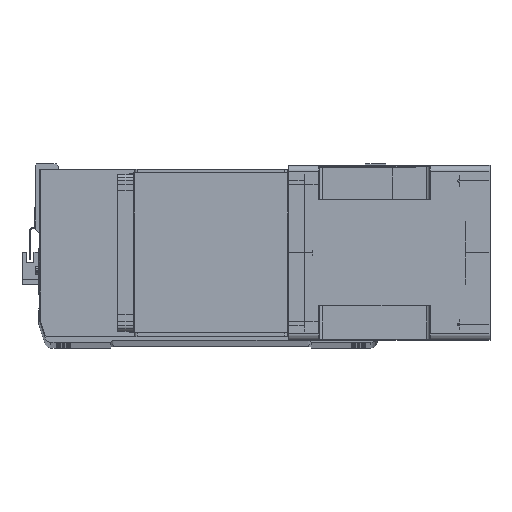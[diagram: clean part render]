
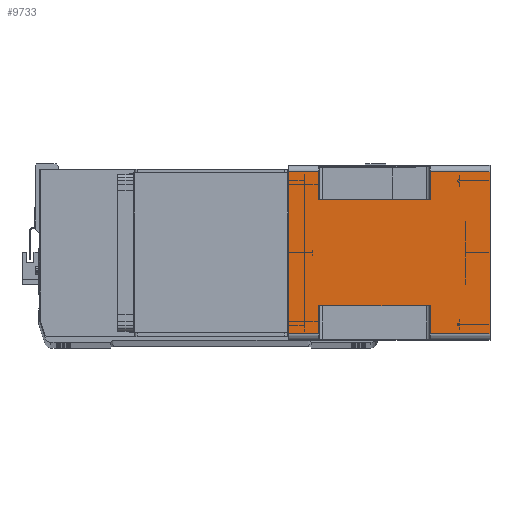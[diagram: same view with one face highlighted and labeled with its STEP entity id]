
A CAD part, top view. The second image highlights one B-rep face of the part: STEP entity #9733.
In plain terms, the highlighted planar face has unit normal (0, 0, 1) as drawn and (1, 0, 0) by its records, which use the part's own axes.
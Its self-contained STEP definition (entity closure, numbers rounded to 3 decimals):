
#118 = CARTESIAN_POINT ( 'NONE',  ( 71., -43., -24.5 ) ) ;
#300 = VERTEX_POINT ( 'NONE', #33904 ) ;
#623 = CARTESIAN_POINT ( 'NONE',  ( 71., -43., -164. ) ) ;
#679 = LINE ( 'NONE', #23363, #19941 ) ;
#810 = VERTEX_POINT ( 'NONE', #7109 ) ;
#1235 = VECTOR ( 'NONE', #19559, 1000. ) ;
#1695 = VECTOR ( 'NONE', #31160, 1000. ) ;
#1833 = VERTEX_POINT ( 'NONE', #25120 ) ;
#1869 = VERTEX_POINT ( 'NONE', #4218 ) ;
#2260 = CARTESIAN_POINT ( 'NONE',  ( 71., -43., -115.5 ) ) ;
#2362 = LINE ( 'NONE', #31084, #24511 ) ;
#2371 = DIRECTION ( 'NONE',  ( 0., 0., 1. ) ) ;
#4218 = CARTESIAN_POINT ( 'NONE',  ( 71., 43., -115.5 ) ) ;
#4696 = VECTOR ( 'NONE', #21502, 1000. ) ;
#4741 = ORIENTED_EDGE ( 'NONE', *, *, #7540, .F. ) ;
#5068 = AXIS2_PLACEMENT_3D ( 'NONE', #16546, #14148, #24241 ) ;
#5210 = EDGE_CURVE ( 'NONE', #13294, #23932, #23449, .T. ) ;
#5735 = LINE ( 'NONE', #25205, #1235 ) ;
#5934 = CARTESIAN_POINT ( 'NONE',  ( 71., -66., -115.5 ) ) ;
#7085 = EDGE_CURVE ( 'NONE', #20629, #30295, #22377, .T. ) ;
#7109 = CARTESIAN_POINT ( 'NONE',  ( 71., 66., -115.5 ) ) ;
#7540 = EDGE_CURVE ( 'NONE', #1833, #17716, #8059, .T. ) ;
#8059 = LINE ( 'NONE', #30953, #29378 ) ;
#8803 = CARTESIAN_POINT ( 'NONE',  ( 71., 43., -24.5 ) ) ;
#9335 = EDGE_CURVE ( 'NONE', #23298, #300, #5735, .T. ) ;
#9457 = EDGE_CURVE ( 'NONE', #17716, #21570, #15581, .T. ) ;
#9568 = EDGE_LOOP ( 'NONE', ( #17107, #20390, #27925, #26937, #25651, #33333, #22725, #29856, #24057, #21800, #4741, #31563 ) ) ;
#9733 = ADVANCED_FACE ( 'NONE', ( #16613 ), #24464, .T. ) ;
#9826 = EDGE_CURVE ( 'NONE', #23932, #810, #18061, .T. ) ;
#10341 = LINE ( 'NONE', #10851, #30491 ) ;
#10851 = CARTESIAN_POINT ( 'NONE',  ( 71., -43., -24.5 ) ) ;
#12048 = EDGE_CURVE ( 'NONE', #1833, #14744, #10341, .T. ) ;
#12142 = CARTESIAN_POINT ( 'NONE',  ( 71., 66., -164. ) ) ;
#12719 = VECTOR ( 'NONE', #22701, 1000. ) ;
#12954 = CARTESIAN_POINT ( 'NONE',  ( 71., 66., -164. ) ) ;
#13294 = VERTEX_POINT ( 'NONE', #28337 ) ;
#14148 = DIRECTION ( 'NONE',  ( 1., 0., 0. ) ) ;
#14731 = CARTESIAN_POINT ( 'NONE',  ( 71., -66., -164. ) ) ;
#14744 = VERTEX_POINT ( 'NONE', #118 ) ;
#15581 = LINE ( 'NONE', #33110, #26279 ) ;
#16546 = CARTESIAN_POINT ( 'NONE',  ( 71., -66., -164. ) ) ;
#16613 = FACE_OUTER_BOUND ( 'NONE', #9568, .T. ) ;
#16905 = CARTESIAN_POINT ( 'NONE',  ( 71., 66., -164. ) ) ;
#16948 = CARTESIAN_POINT ( 'NONE',  ( 71., -66., -115.5 ) ) ;
#17107 = ORIENTED_EDGE ( 'NONE', *, *, #25463, .F. ) ;
#17716 = VERTEX_POINT ( 'NONE', #33863 ) ;
#18061 = LINE ( 'NONE', #12142, #12719 ) ;
#19559 = DIRECTION ( 'NONE',  ( 0., 1., 0. ) ) ;
#19941 = VECTOR ( 'NONE', #31410, 1000. ) ;
#20161 = VECTOR ( 'NONE', #20308, 1000. ) ;
#20308 = DIRECTION ( 'NONE',  ( 0., 1., 0. ) ) ;
#20390 = ORIENTED_EDGE ( 'NONE', *, *, #7085, .T. ) ;
#20499 = DIRECTION ( 'NONE',  ( 0., 0., -1. ) ) ;
#20629 = VERTEX_POINT ( 'NONE', #2260 ) ;
#21154 = EDGE_CURVE ( 'NONE', #810, #1869, #30833, .T. ) ;
#21502 = DIRECTION ( 'NONE',  ( 0., 0., 1. ) ) ;
#21570 = VERTEX_POINT ( 'NONE', #23320 ) ;
#21800 = ORIENTED_EDGE ( 'NONE', *, *, #9457, .F. ) ;
#21961 = VECTOR ( 'NONE', #29133, 1000. ) ;
#22377 = LINE ( 'NONE', #5934, #21961 ) ;
#22701 = DIRECTION ( 'NONE',  ( 0., 0., 1. ) ) ;
#22725 = ORIENTED_EDGE ( 'NONE', *, *, #28002, .F. ) ;
#23298 = VERTEX_POINT ( 'NONE', #8803 ) ;
#23320 = CARTESIAN_POINT ( 'NONE',  ( 71., 66., 0. ) ) ;
#23363 = CARTESIAN_POINT ( 'NONE',  ( 71., -66., -164. ) ) ;
#23449 = LINE ( 'NONE', #14731, #20161 ) ;
#23932 = VERTEX_POINT ( 'NONE', #12954 ) ;
#24057 = ORIENTED_EDGE ( 'NONE', *, *, #30871, .T. ) ;
#24241 = DIRECTION ( 'NONE',  ( 0., 1., 0. ) ) ;
#24464 = PLANE ( 'NONE',  #5068 ) ;
#24511 = VECTOR ( 'NONE', #20499, 1000. ) ;
#24840 = DIRECTION ( 'NONE',  ( 0., 0., 1. ) ) ;
#25120 = CARTESIAN_POINT ( 'NONE',  ( 71., -66., -24.5 ) ) ;
#25205 = CARTESIAN_POINT ( 'NONE',  ( 71., -66., -24.5 ) ) ;
#25316 = CARTESIAN_POINT ( 'NONE',  ( 71., 43., -115.5 ) ) ;
#25463 = EDGE_CURVE ( 'NONE', #20629, #14744, #28138, .T. ) ;
#25651 = ORIENTED_EDGE ( 'NONE', *, *, #9826, .T. ) ;
#26279 = VECTOR ( 'NONE', #27838, 1000. ) ;
#26937 = ORIENTED_EDGE ( 'NONE', *, *, #5210, .T. ) ;
#27610 = VECTOR ( 'NONE', #24840, 1000. ) ;
#27838 = DIRECTION ( 'NONE',  ( 0., 1., 0. ) ) ;
#27925 = ORIENTED_EDGE ( 'NONE', *, *, #28492, .F. ) ;
#28002 = EDGE_CURVE ( 'NONE', #23298, #1869, #2362, .T. ) ;
#28138 = LINE ( 'NONE', #623, #4696 ) ;
#28337 = CARTESIAN_POINT ( 'NONE',  ( 71., -66., -164. ) ) ;
#28492 = EDGE_CURVE ( 'NONE', #13294, #30295, #679, .T. ) ;
#29133 = DIRECTION ( 'NONE',  ( 0., -1., 0. ) ) ;
#29233 = DIRECTION ( 'NONE',  ( 0., 1., 0. ) ) ;
#29378 = VECTOR ( 'NONE', #2371, 1000. ) ;
#29856 = ORIENTED_EDGE ( 'NONE', *, *, #9335, .T. ) ;
#30295 = VERTEX_POINT ( 'NONE', #16948 ) ;
#30491 = VECTOR ( 'NONE', #29233, 1000. ) ;
#30833 = LINE ( 'NONE', #25316, #1695 ) ;
#30871 = EDGE_CURVE ( 'NONE', #300, #21570, #31284, .T. ) ;
#30953 = CARTESIAN_POINT ( 'NONE',  ( 71., -66., -164. ) ) ;
#31084 = CARTESIAN_POINT ( 'NONE',  ( 71., 43., -164. ) ) ;
#31160 = DIRECTION ( 'NONE',  ( 0., -1., 0. ) ) ;
#31284 = LINE ( 'NONE', #16905, #27610 ) ;
#31410 = DIRECTION ( 'NONE',  ( 0., 0., 1. ) ) ;
#31563 = ORIENTED_EDGE ( 'NONE', *, *, #12048, .T. ) ;
#33110 = CARTESIAN_POINT ( 'NONE',  ( 71., -66., 0. ) ) ;
#33333 = ORIENTED_EDGE ( 'NONE', *, *, #21154, .T. ) ;
#33863 = CARTESIAN_POINT ( 'NONE',  ( 71., -66., 0. ) ) ;
#33904 = CARTESIAN_POINT ( 'NONE',  ( 71., 66., -24.5 ) ) ;
